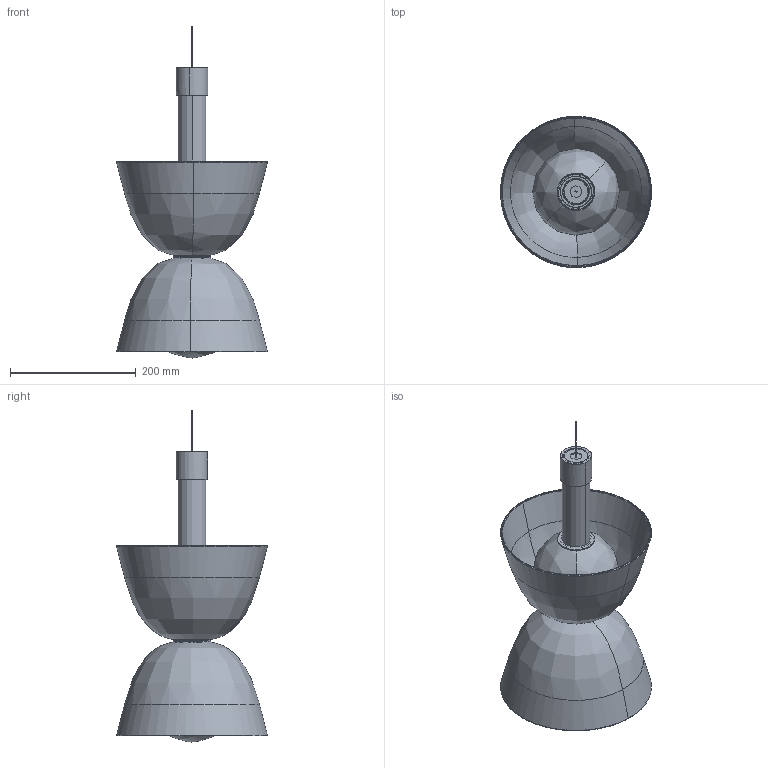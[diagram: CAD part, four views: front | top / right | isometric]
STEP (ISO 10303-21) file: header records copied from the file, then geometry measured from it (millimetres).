
FILE_DESCRIPTION(/* description */ (''),/* implementation_level */ '2;1');
FILE_NAME(/* name */ 'SEM.000224',/* time_stamp */ '2023-05-11T17:06:31+02:00',/* author */ (''),/* organization */ (''),/* preprocessor_version */ 'ST-DEVELOPER v16.5',/* originating_system */ 'Rhino 7.29',/* authorisation */ '');
FILE_SCHEMA (('CONFIG_CONTROL_DESIGN'));
Length unit declared in the file: millimetre
Products named in the file (9): Document; MET.006349; PLA.005260; MET.005642; VET.005135; VET.005127; PLA.005261; PLA.005262; VET.005123
Assembly tree (12 placements, depth 2):
  Document
    MET.006349
    PLA.005260
    MET.005642
    VET.005135
    VET.005127
    PLA.005261  x4
    PLA.005262  x2
    VET.005123
Bounding box: 240.17 x 240.31 x 528.34 mm (x, y, z)
Volume: 494236.5 mm3; surface area: 777872.1 mm2
Topology: 14 solids, 16 shells, 638 faces, 1510 edges, 866 vertices
Faces by surface type: bspline 484, cylinder 102, plane 52
Entity records: 15857 total; most frequent: CARTESIAN_POINT 11095, ORIENTED_EDGE 1306, EDGE_CURVE 657, VERTEX_POINT 415, EDGE_LOOP 306, ADVANCED_FACE 278, FACE_OUTER_BOUND 278, B_SPLINE_CURVE_WITH_KNOTS 178
